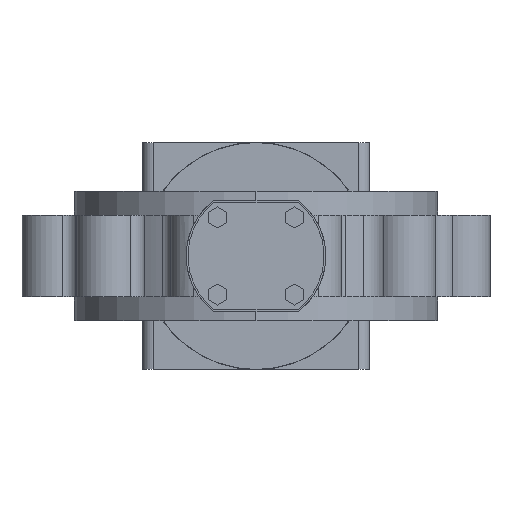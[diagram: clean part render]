
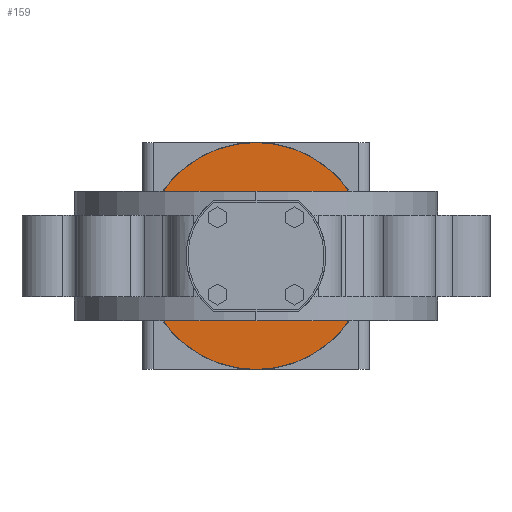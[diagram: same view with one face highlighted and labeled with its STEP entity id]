
A CAD part, front view. The second image highlights one B-rep face of the part: STEP entity #159.
In plain terms, the highlighted planar face has unit normal (0, -1, 0).
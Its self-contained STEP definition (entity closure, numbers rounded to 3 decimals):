
#159 = ADVANCED_FACE( '', ( #530, #531 ), #532, .T. );
#530 = FACE_OUTER_BOUND( '', #1135, .T. );
#531 = FACE_BOUND( '', #1136, .T. );
#532 = PLANE( '', #1137 );
#1135 = EDGE_LOOP( '', ( #2229, #2230 ) );
#1136 = EDGE_LOOP( '', ( #2231, #2232, #2233, #2234 ) );
#1137 = AXIS2_PLACEMENT_3D( '', #2235, #2236, #2237 );
#2229 = ORIENTED_EDGE( '', *, *, #3984, .F. );
#2230 = ORIENTED_EDGE( '', *, *, #4137, .F. );
#2231 = ORIENTED_EDGE( '', *, *, #4138, .T. );
#2232 = ORIENTED_EDGE( '', *, *, #4139, .T. );
#2233 = ORIENTED_EDGE( '', *, *, #4140, .T. );
#2234 = ORIENTED_EDGE( '', *, *, #4141, .T. );
#2235 = CARTESIAN_POINT( '', ( 59., 377., 0. ) );
#2236 = DIRECTION( '', ( 0., -1., 0. ) );
#2237 = DIRECTION( '', ( -1., 0., 0. ) );
#3984 = EDGE_CURVE( '', #4854, #4857, #4858, .T. );
#4137 = EDGE_CURVE( '', #4857, #4854, #5107, .T. );
#4138 = EDGE_CURVE( '', #5108, #5109, #5110, .T. );
#4139 = EDGE_CURVE( '', #5109, #5111, #5112, .T. );
#4140 = EDGE_CURVE( '', #5111, #5113, #5114, .T. );
#4141 = EDGE_CURVE( '', #5113, #5108, #5115, .T. );
#4854 = VERTEX_POINT( '', #6536 );
#4857 = VERTEX_POINT( '', #6540 );
#4858 = CIRCLE( '', #6541, 100. );
#5107 = CIRCLE( '', #7143, 100. );
#5108 = VERTEX_POINT( '', #7144 );
#5109 = VERTEX_POINT( '', #7145 );
#5110 = LINE( '', #7146, #7147 );
#5111 = VERTEX_POINT( '', #7148 );
#5112 = LINE( '', #7149, #7150 );
#5113 = VERTEX_POINT( '', #7151 );
#5114 = LINE( '', #7152, #7153 );
#5115 = LINE( '', #7154, #7155 );
#6536 = CARTESIAN_POINT( '', ( 100., 377., 0. ) );
#6540 = CARTESIAN_POINT( '', ( -100., 377., 0. ) );
#6541 = AXIS2_PLACEMENT_3D( '', #8464, #8465, #8466 );
#7143 = AXIS2_PLACEMENT_3D( '', #8744, #8745, #8746 );
#7144 = CARTESIAN_POINT( '', ( -49., 377., -36. ) );
#7145 = CARTESIAN_POINT( '', ( -49., 377., 36. ) );
#7146 = CARTESIAN_POINT( '', ( -49., 377., -36. ) );
#7147 = VECTOR( '', #8747, 1. );
#7148 = CARTESIAN_POINT( '', ( 49., 377., 36. ) );
#7149 = CARTESIAN_POINT( '', ( -49., 377., 36. ) );
#7150 = VECTOR( '', #8748, 1. );
#7151 = CARTESIAN_POINT( '', ( 49., 377., -36. ) );
#7152 = CARTESIAN_POINT( '', ( 49., 377., 36. ) );
#7153 = VECTOR( '', #8749, 1. );
#7154 = CARTESIAN_POINT( '', ( 49., 377., -36. ) );
#7155 = VECTOR( '', #8750, 1. );
#8464 = CARTESIAN_POINT( '', ( 0., 377., 0. ) );
#8465 = DIRECTION( '', ( 0., 1., 0. ) );
#8466 = DIRECTION( '', ( 1., 0., 0. ) );
#8744 = CARTESIAN_POINT( '', ( 0., 377., 0. ) );
#8745 = DIRECTION( '', ( 0., 1., 0. ) );
#8746 = DIRECTION( '', ( 1., 0., 0. ) );
#8747 = DIRECTION( '', ( 0., 0., 1. ) );
#8748 = DIRECTION( '', ( 1., 0., 0. ) );
#8749 = DIRECTION( '', ( 0., 0., -1. ) );
#8750 = DIRECTION( '', ( -1., 0., 0. ) );
